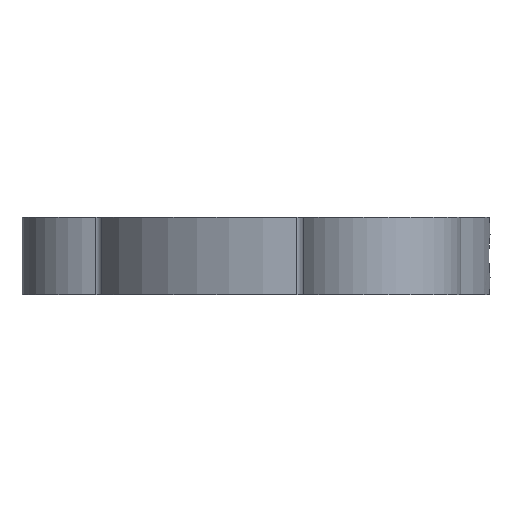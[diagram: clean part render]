
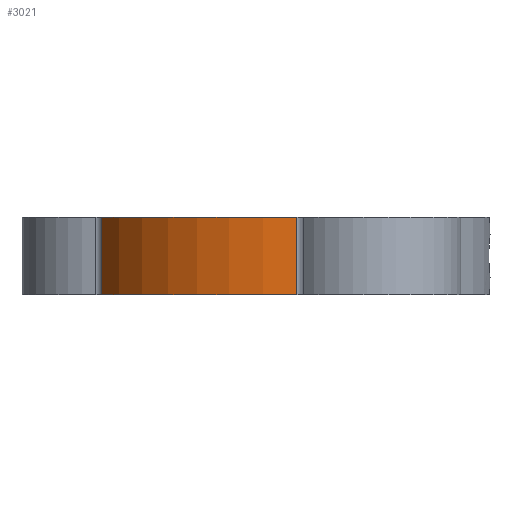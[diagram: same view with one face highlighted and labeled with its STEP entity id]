
A CAD part, left-side view. The second image highlights one B-rep face of the part: STEP entity #3021.
In plain terms, the highlighted cylindrical face has radius 26.5 mm (diameter 53 mm), a partial arc.
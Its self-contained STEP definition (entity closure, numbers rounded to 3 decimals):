
#163 = VERTEX_POINT ( 'NONE', #395 ) ;
#395 = CARTESIAN_POINT ( 'NONE',  ( -26.454, -1.559, -8. ) ) ;
#879 = EDGE_CURVE ( 'NONE', #5847, #163, #8087, .T. ) ;
#991 = ORIENTED_EDGE ( 'NONE', *, *, #7283, .F. ) ;
#1493 = ORIENTED_EDGE ( 'NONE', *, *, #1759, .T. ) ;
#1759 = EDGE_CURVE ( 'NONE', #5370, #5847, #5161, .T. ) ;
#2630 = AXIS2_PLACEMENT_3D ( 'NONE', #2635, #5077, #6944 ) ;
#2635 = CARTESIAN_POINT ( 'NONE',  ( 0., 0., 2. ) ) ;
#2946 = AXIS2_PLACEMENT_3D ( 'NONE', #5239, #7777, #5283 ) ;
#3021 = ADVANCED_FACE ( 'NONE', ( #5820 ), #4619, .T. ) ;
#3074 = VECTOR ( 'NONE', #5852, 1000. ) ;
#3126 = EDGE_CURVE ( 'NONE', #163, #6340, #7139, .T. ) ;
#3366 = ORIENTED_EDGE ( 'NONE', *, *, #3126, .T. ) ;
#3371 = DIRECTION ( 'NONE',  ( 1., 0., 0. ) ) ;
#3476 = ORIENTED_EDGE ( 'NONE', *, *, #879, .T. ) ;
#4028 = DIRECTION ( 'NONE',  ( 0., 0., 1. ) ) ;
#4512 = AXIS2_PLACEMENT_3D ( 'NONE', #6362, #4028, #3371 ) ;
#4527 = EDGE_LOOP ( 'NONE', ( #991, #1493, #3476, #3366 ) ) ;
#4619 = CYLINDRICAL_SURFACE ( 'NONE', #2946, 26.5 ) ;
#5005 = CIRCLE ( 'NONE', #2630, 26.5 ) ;
#5077 = DIRECTION ( 'NONE',  ( 0., 0., 1. ) ) ;
#5161 = LINE ( 'NONE', #6620, #7823 ) ;
#5239 = CARTESIAN_POINT ( 'NONE',  ( 0., 0., -8. ) ) ;
#5283 = DIRECTION ( 'NONE',  ( 1., 0., 0. ) ) ;
#5370 = VERTEX_POINT ( 'NONE', #5924 ) ;
#5603 = CARTESIAN_POINT ( 'NONE',  ( -26.454, -1.559, 2. ) ) ;
#5820 = FACE_OUTER_BOUND ( 'NONE', #4527, .T. ) ;
#5824 = DIRECTION ( 'NONE',  ( 0., 0., -1. ) ) ;
#5847 = VERTEX_POINT ( 'NONE', #7860 ) ;
#5852 = DIRECTION ( 'NONE',  ( 0., 0., 1. ) ) ;
#5924 = CARTESIAN_POINT ( 'NONE',  ( -11.877, 23.689, 2. ) ) ;
#6340 = VERTEX_POINT ( 'NONE', #5603 ) ;
#6362 = CARTESIAN_POINT ( 'NONE',  ( 0., 0., -8. ) ) ;
#6484 = CARTESIAN_POINT ( 'NONE',  ( -26.454, -1.559, -8. ) ) ;
#6620 = CARTESIAN_POINT ( 'NONE',  ( -11.877, 23.689, -8. ) ) ;
#6944 = DIRECTION ( 'NONE',  ( 1., 0., 0. ) ) ;
#7139 = LINE ( 'NONE', #6484, #3074 ) ;
#7283 = EDGE_CURVE ( 'NONE', #5370, #6340, #5005, .T. ) ;
#7777 = DIRECTION ( 'NONE',  ( 0., 0., 1. ) ) ;
#7823 = VECTOR ( 'NONE', #5824, 1000. ) ;
#7860 = CARTESIAN_POINT ( 'NONE',  ( -11.877, 23.689, -8. ) ) ;
#8087 = CIRCLE ( 'NONE', #4512, 26.5 ) ;
